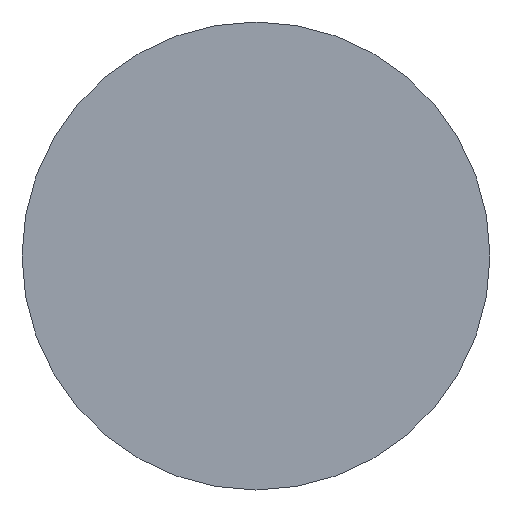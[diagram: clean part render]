
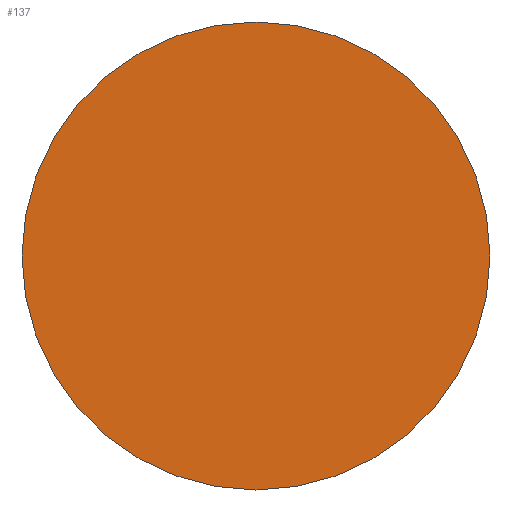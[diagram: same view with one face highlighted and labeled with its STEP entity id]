
A CAD part, left-side view. The second image highlights one B-rep face of the part: STEP entity #137.
In plain terms, the highlighted planar face has unit normal (-1, 0, 0).
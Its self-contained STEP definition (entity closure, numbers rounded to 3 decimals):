
#13 = ORIENTED_EDGE ( 'NONE', *, *, #50, .T. ) ;
#19 = CIRCLE ( 'NONE', #53, 5.5 ) ;
#20 = CIRCLE ( 'NONE', #70, 5.5 ) ;
#25 = ORIENTED_EDGE ( 'NONE', *, *, #52, .T. ) ;
#28 = EDGE_LOOP ( 'NONE', ( #25, #13 ) ) ;
#31 = FACE_OUTER_BOUND ( 'NONE', #28, .T. ) ;
#50 = EDGE_CURVE ( 'NONE', #133, #134, #20, .T. ) ;
#52 = EDGE_CURVE ( 'NONE', #134, #133, #19, .T. ) ;
#53 = AXIS2_PLACEMENT_3D ( 'NONE', #120, #116, #115 ) ;
#64 = AXIS2_PLACEMENT_3D ( 'NONE', #88, #95, #96 ) ;
#70 = AXIS2_PLACEMENT_3D ( 'NONE', #94, #93, #121 ) ;
#76 = CARTESIAN_POINT ( 'NONE',  ( -257.5, 0., -5.5 ) ) ;
#80 = CARTESIAN_POINT ( 'NONE',  ( -257.5, 0., 5.5 ) ) ;
#88 = CARTESIAN_POINT ( 'NONE',  ( -257.5, 0., 0. ) ) ;
#91 = PLANE ( 'NONE',  #64 ) ;
#93 = DIRECTION ( 'NONE',  ( -1., 0., 0. ) ) ;
#94 = CARTESIAN_POINT ( 'NONE',  ( -257.5, 0., 0. ) ) ;
#95 = DIRECTION ( 'NONE',  ( -1., 0., 0. ) ) ;
#96 = DIRECTION ( 'NONE',  ( 0., 0., 1. ) ) ;
#115 = DIRECTION ( 'NONE',  ( 0., 0., 1. ) ) ;
#116 = DIRECTION ( 'NONE',  ( -1., 0., 0. ) ) ;
#120 = CARTESIAN_POINT ( 'NONE',  ( -257.5, 0., 0. ) ) ;
#121 = DIRECTION ( 'NONE',  ( 0., 0., 1. ) ) ;
#133 = VERTEX_POINT ( 'NONE', #76 ) ;
#134 = VERTEX_POINT ( 'NONE', #80 ) ;
#137 = ADVANCED_FACE ( 'NONE', ( #31 ), #91, .T. ) ;
